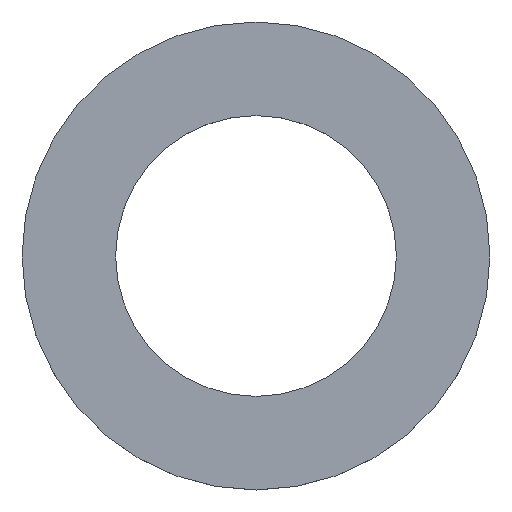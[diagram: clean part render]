
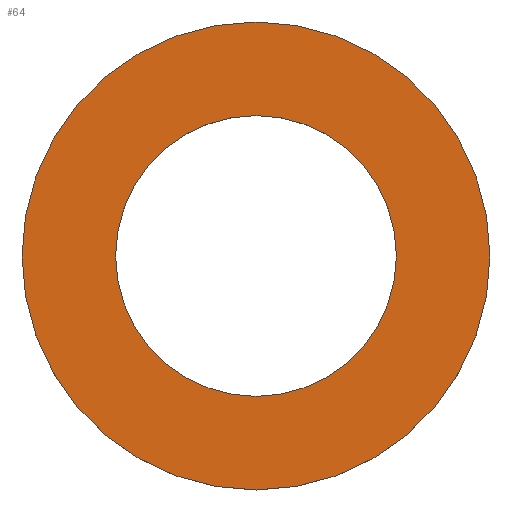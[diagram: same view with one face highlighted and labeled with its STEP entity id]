
A CAD part, top view. The second image highlights one B-rep face of the part: STEP entity #64.
In plain terms, the highlighted planar face has unit normal (0, 0, 1).
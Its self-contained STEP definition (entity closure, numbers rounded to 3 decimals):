
#16=FACE_BOUND('',#28,.T.);
#18=PLANE('',#86);
#22=FACE_OUTER_BOUND('',#27,.T.);
#27=EDGE_LOOP('',(#57));
#28=EDGE_LOOP('',(#58));
#33=CIRCLE('',#80,7.938);
#36=CIRCLE('',#84,4.763);
#37=VERTEX_POINT('',#109);
#40=VERTEX_POINT('',#117);
#41=EDGE_CURVE('',#37,#37,#33,.T.);
#46=EDGE_CURVE('',#40,#40,#36,.T.);
#57=ORIENTED_EDGE('',*,*,#41,.T.);
#58=ORIENTED_EDGE('',*,*,#46,.T.);
#64=ADVANCED_FACE('',(#22,#16),#18,.T.);
#80=AXIS2_PLACEMENT_3D('',#110,#91,#92);
#84=AXIS2_PLACEMENT_3D('',#119,#101,#102);
#86=AXIS2_PLACEMENT_3D('',#121,#105,#106);
#91=DIRECTION('center_axis',(0.,0.,1.));
#92=DIRECTION('ref_axis',(1.,0.,0.));
#101=DIRECTION('center_axis',(0.,0.,-1.));
#102=DIRECTION('ref_axis',(1.,0.,0.));
#105=DIRECTION('center_axis',(0.,0.,1.));
#106=DIRECTION('ref_axis',(1.,0.,0.));
#109=CARTESIAN_POINT('',(-7.938,0.,1.016));
#110=CARTESIAN_POINT('Origin',(0.,0.,1.016));
#117=CARTESIAN_POINT('',(-4.763,0.,1.016));
#119=CARTESIAN_POINT('Origin',(0.,0.,1.016));
#121=CARTESIAN_POINT('Origin',(0.,0.,1.016));
